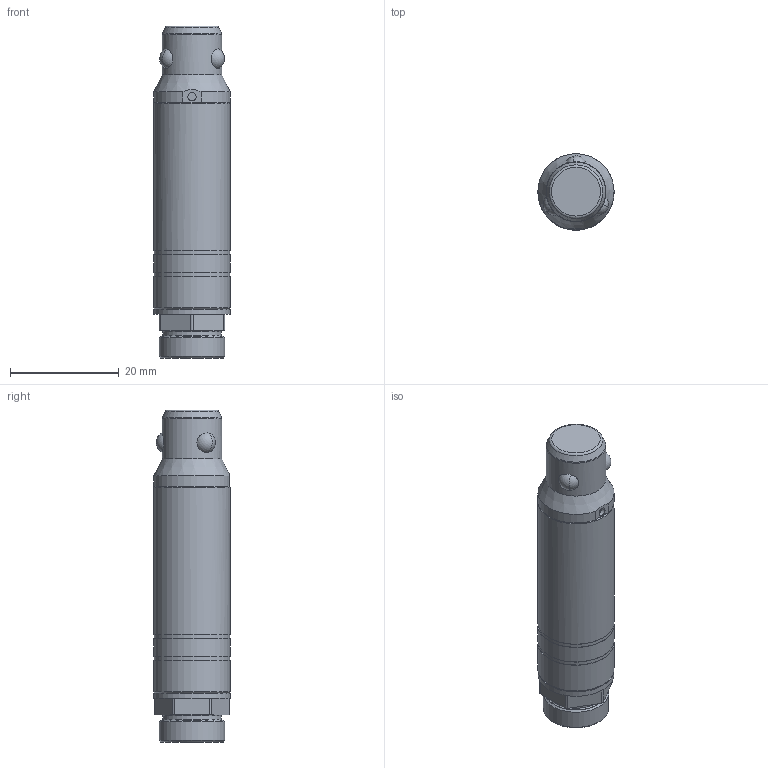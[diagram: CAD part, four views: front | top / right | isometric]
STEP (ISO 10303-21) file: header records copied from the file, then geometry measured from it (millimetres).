
FILE_DESCRIPTION(/* description */ (''),/* implementation_level */ '2;1');
FILE_NAME(/* name */ 'GMP14A',/* time_stamp */ '2021-12-28T11:29:03+08:00',/* author */ (''),/* organization */ (''),/* preprocessor_version */ 'ST-DEVELOPER v9',/* originating_system */ 'UGS - NX 4.0',/* authorisation */ '');
FILE_SCHEMA (('AUTOMOTIVE_DESIGN { 1 0 10303 214 1 1 1 1 }'));
Length unit declared in the file: millimetre
Products named in the file (1): Admi0E97t2pv
Bounding box: 14 x 14 x 61 mm (x, y, z)
Volume: 5080 mm3; surface area: 4876.2 mm2
Topology: 1 solids, 3 shells, 102 faces, 238 edges, 148 vertices
Faces by surface type: cylinder 35, plane 29, cone 19, sphere 12, torus 7
Full cylindrical faces by diameter (mm): 0.8 x1, 1.5 x1, 4.2 x1, 6.4 x1, 9.5 x1, 10 x2, 10.8 x1, 11 x6, 12 x4, 12.5 x1, 13.9 x2, 14 x4
Entity records: 2804 total; most frequent: CARTESIAN_POINT 789, DIRECTION 448, ORIENTED_EDGE 308, AXIS2_PLACEMENT_3D 210, EDGE_LOOP 175, EDGE_CURVE 154, VERTEX_POINT 127, CIRCLE 107
